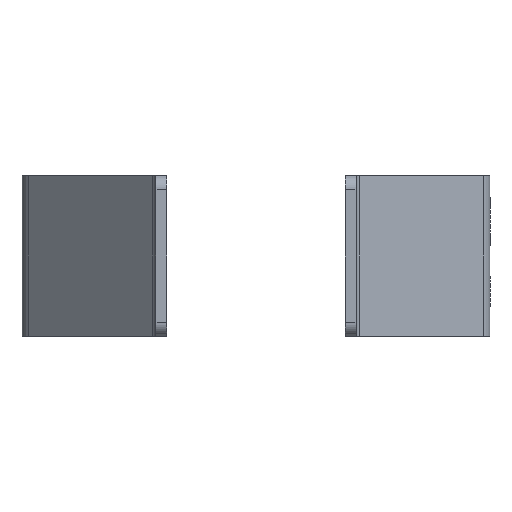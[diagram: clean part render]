
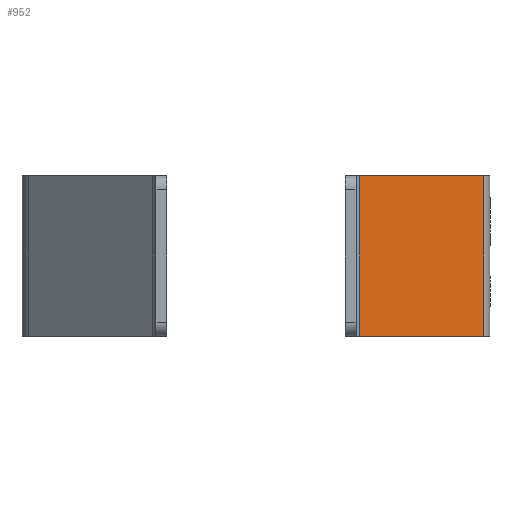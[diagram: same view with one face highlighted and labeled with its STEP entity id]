
A CAD part, front view. The second image highlights one B-rep face of the part: STEP entity #952.
In plain terms, the highlighted planar face has unit normal (0.707, -0.707, 0).
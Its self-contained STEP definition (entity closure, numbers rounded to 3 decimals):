
#149 = DIRECTION ( 'NONE',  ( 0., 0., -1. ) ) ;
#152 = CARTESIAN_POINT ( 'NONE',  ( 3.879, -0.364, 0. ) ) ;
#253 = EDGE_CURVE ( 'NONE', #619, #1501, #1324, .T. ) ;
#258 = CARTESIAN_POINT ( 'NONE',  ( 3.879, -0.364, 45. ) ) ;
#333 = PLANE ( 'NONE',  #1041 ) ;
#491 = VECTOR ( 'NONE', #922, 1000. ) ;
#499 = CARTESIAN_POINT ( 'NONE',  ( 2.121, -2.121, 45. ) ) ;
#619 = VERTEX_POINT ( 'NONE', #1410 ) ;
#635 = CARTESIAN_POINT ( 'NONE',  ( 3.879, -0.364, 45. ) ) ;
#642 = DIRECTION ( 'NONE',  ( 0., 0., -1. ) ) ;
#658 = ORIENTED_EDGE ( 'NONE', *, *, #253, .F. ) ;
#672 = VECTOR ( 'NONE', #149, 1000. ) ;
#677 = ORIENTED_EDGE ( 'NONE', *, *, #1325, .F. ) ;
#720 = EDGE_LOOP ( 'NONE', ( #1082, #658, #677, #869 ) ) ;
#730 = VECTOR ( 'NONE', #642, 1000. ) ;
#761 = CARTESIAN_POINT ( 'NONE',  ( 38.743, 34.5, 0. ) ) ;
#799 = EDGE_CURVE ( 'NONE', #1287, #1367, #1359, .T. ) ;
#804 = VECTOR ( 'NONE', #983, 1000. ) ;
#820 = LINE ( 'NONE', #1028, #491 ) ;
#869 = ORIENTED_EDGE ( 'NONE', *, *, #799, .T. ) ;
#891 = CARTESIAN_POINT ( 'NONE',  ( 38.743, 34.5, 45. ) ) ;
#922 = DIRECTION ( 'NONE',  ( 0.707, 0.707, 0. ) ) ;
#926 = DIRECTION ( 'NONE',  ( -0.707, -0.707, 0. ) ) ;
#952 = ADVANCED_FACE ( 'NONE', ( #1026 ), #333, .F. ) ;
#983 = DIRECTION ( 'NONE',  ( 0.707, 0.707, 0. ) ) ;
#1026 = FACE_OUTER_BOUND ( 'NONE', #720, .T. ) ;
#1028 = CARTESIAN_POINT ( 'NONE',  ( 2.121, -2.121, 0. ) ) ;
#1041 = AXIS2_PLACEMENT_3D ( 'NONE', #1060, #1550, #926 ) ;
#1060 = CARTESIAN_POINT ( 'NONE',  ( 2.121, -2.121, 45. ) ) ;
#1082 = ORIENTED_EDGE ( 'NONE', *, *, #1215, .T. ) ;
#1215 = EDGE_CURVE ( 'NONE', #1367, #1501, #820, .T. ) ;
#1287 = VERTEX_POINT ( 'NONE', #258 ) ;
#1324 = LINE ( 'NONE', #891, #672 ) ;
#1325 = EDGE_CURVE ( 'NONE', #1287, #619, #1358, .T. ) ;
#1358 = LINE ( 'NONE', #499, #804 ) ;
#1359 = LINE ( 'NONE', #635, #730 ) ;
#1367 = VERTEX_POINT ( 'NONE', #152 ) ;
#1410 = CARTESIAN_POINT ( 'NONE',  ( 38.743, 34.5, 45. ) ) ;
#1501 = VERTEX_POINT ( 'NONE', #761 ) ;
#1550 = DIRECTION ( 'NONE',  ( -0.707, 0.707, 0. ) ) ;
